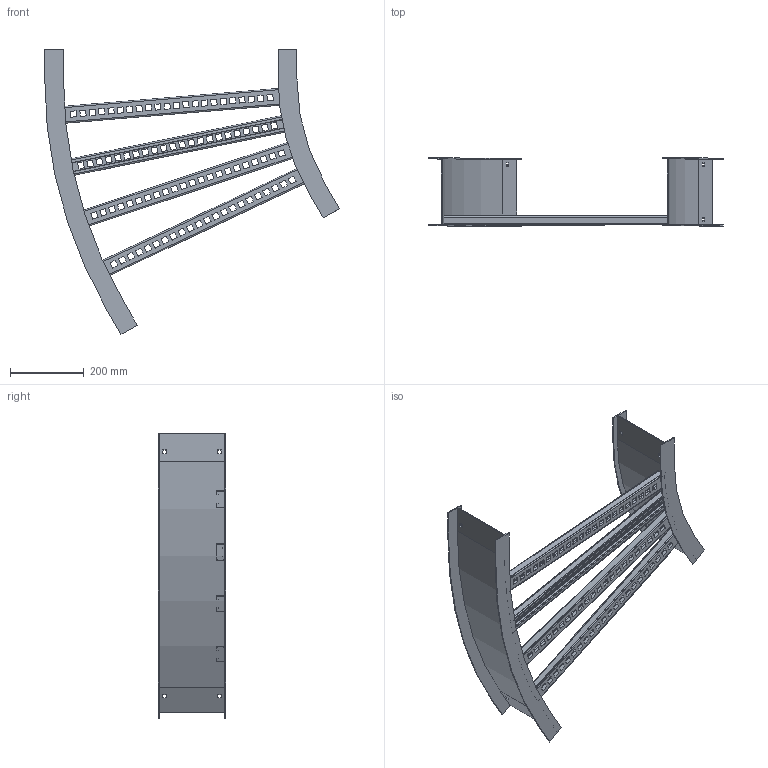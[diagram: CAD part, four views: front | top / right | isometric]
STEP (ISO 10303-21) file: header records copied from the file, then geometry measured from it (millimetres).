
FILE_DESCRIPTION((''),'2;1');
FILE_NAME('AHF724VHB3024_ASM','2010-01-27T',('erouzier'),(''),'PRO/ENGINEER BY PARAMETRIC TECHNOLOGY CORPORATION, 2008510','PRO/ENGINEER BY PARAMETRIC TECHNOLOGY CORPORATION, 2008510','');
FILE_SCHEMA(('CONFIG_CONTROL_DESIGN'));
Length unit declared in the file: inch
Products named in the file (4): CDS001813-7-30-24-I; CDS001813-7-30-48-O; CDS002159L24-P; AHF724VHB3024_ASM
Assembly tree (6 placements, depth 2):
  AHF724VHB3024_ASM
    CDS001813-7-30-24-I
    CDS001813-7-30-48-O
    CDS002159L24-P  x4
Bounding box: 797.52 x 183.9 x 771.1 mm (x, y, z)
Volume: 1243023.9 mm3; surface area: 1256166 mm2
Topology: 6 solids, 6 shells, 908 faces, 2688 edges, 1792 vertices
Faces by surface type: plane 500, cylinder 408
Entity records: 9918 total; most frequent: CARTESIAN_POINT 1720, ORIENTED_EDGE 1704, DIRECTION 1674, EDGE_CURVE 852, VECTOR 630, LINE 630, VERTEX_POINT 568, AXIS2_PLACEMENT_3D 522
